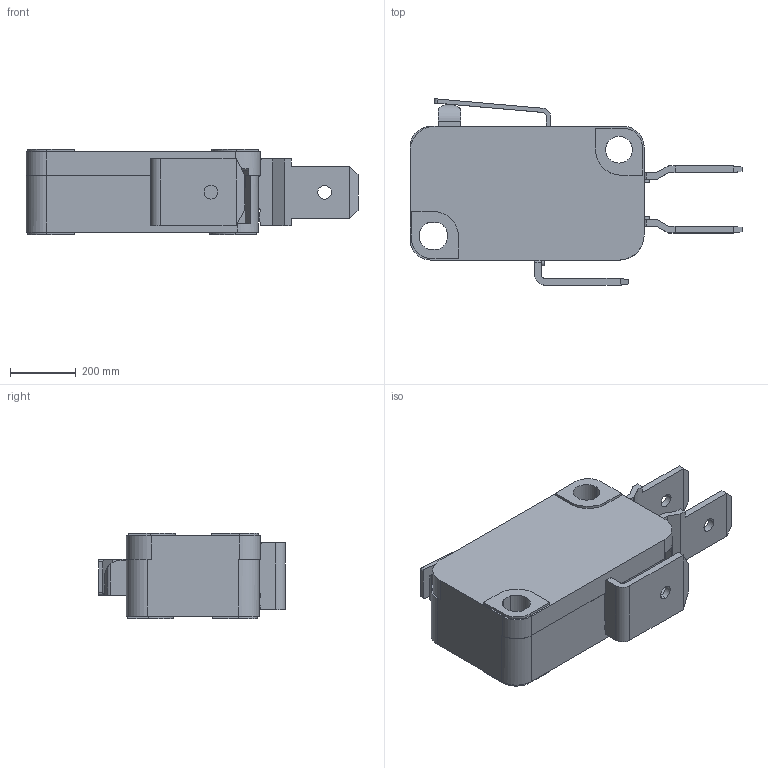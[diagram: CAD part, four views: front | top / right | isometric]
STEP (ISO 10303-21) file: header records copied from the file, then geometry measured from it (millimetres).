
FILE_DESCRIPTION((''),'2;1');
FILE_NAME('ASM0002_ASM','2016-06-02T',('Administrator'),(''),'PRO/ENGINEER BY PARAMETRIC TECHNOLOGY CORPORATION, 2012360','PRO/ENGINEER BY PARAMETRIC TECHNOLOGY CORPORATION, 2012360','');
FILE_SCHEMA(('CONFIG_CONTROL_DESIGN'));
Length unit declared in the file: inch
Products named in the file (1): ASM0002_ASM
Bounding box: 1008.38 x 565.99 x 259.08 mm (x, y, z)
Volume: 61507912.1 mm3; surface area: 2824013.7 mm2
Topology: 1 solids, 3 shells, 538 faces, 1561 edges, 1016 vertices
Faces by surface type: plane 424, cylinder 106, torus 4, cone 4
Entity records: 17752 total; most frequent: CARTESIAN_POINT 3319, ORIENTED_EDGE 3122, DIRECTION 2846, EDGE_CURVE 1561, VECTOR 1284, LINE 1284, VERTEX_POINT 1016, AXIS2_PLACEMENT_3D 781
